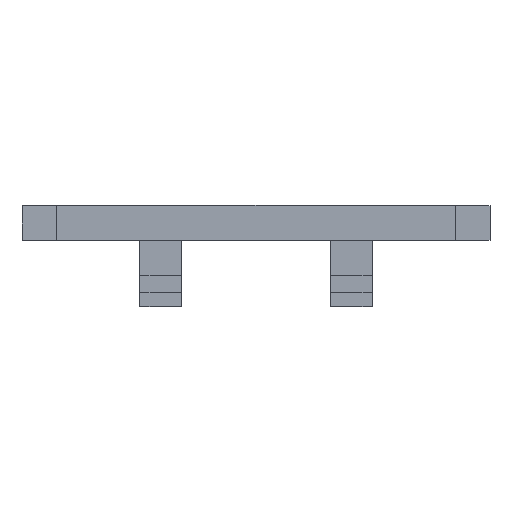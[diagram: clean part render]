
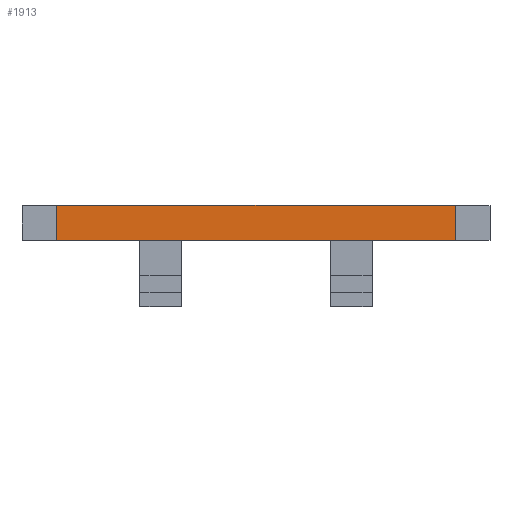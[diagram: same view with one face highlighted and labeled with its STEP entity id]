
A CAD part, top view. The second image highlights one B-rep face of the part: STEP entity #1913.
In plain terms, the highlighted planar face has unit normal (0, 0, 1).
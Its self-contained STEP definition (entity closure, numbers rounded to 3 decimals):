
#62 = PLANE('',#63);
#63 = AXIS2_PLACEMENT_3D('',#64,#65,#66);
#64 = CARTESIAN_POINT('',(-39.5,-17.6,-53.762));
#65 = DIRECTION('',(0.,1.,0.));
#66 = DIRECTION('',(0.,-0.,1.));
#118 = PLANE('',#119);
#119 = AXIS2_PLACEMENT_3D('',#120,#121,#122);
#120 = CARTESIAN_POINT('',(-39.5,-15.6,-53.762));
#121 = DIRECTION('',(0.,1.,0.));
#122 = DIRECTION('',(0.,-0.,1.));
#291 = VERTEX_POINT('',#292);
#292 = CARTESIAN_POINT('',(-39.5,-17.6,-35.762));
#306 = PLANE('',#307);
#307 = AXIS2_PLACEMENT_3D('',#308,#309,#310);
#308 = CARTESIAN_POINT('',(-39.5,-17.6,-53.762));
#309 = DIRECTION('',(1.,0.,0.));
#310 = DIRECTION('',(0.,0.,1.));
#318 = EDGE_CURVE('',#291,#319,#321,.T.);
#319 = VERTEX_POINT('',#320);
#320 = CARTESIAN_POINT('',(-16.5,-17.6,-35.762));
#321 = SURFACE_CURVE('',#322,(#326,#333),.PCURVE_S1.);
#322 = LINE('',#323,#324);
#323 = CARTESIAN_POINT('',(-39.5,-17.6,-35.762));
#324 = VECTOR('',#325,1.);
#325 = DIRECTION('',(1.,0.,0.));
#326 = PCURVE('',#62,#327);
#327 = DEFINITIONAL_REPRESENTATION('',(#328),#332);
#328 = LINE('',#329,#330);
#329 = CARTESIAN_POINT('',(18.,0.));
#330 = VECTOR('',#331,1.);
#331 = DIRECTION('',(0.,1.));
#332 = ( GEOMETRIC_REPRESENTATION_CONTEXT(2) 
PARAMETRIC_REPRESENTATION_CONTEXT() REPRESENTATION_CONTEXT('2D SPACE',''
  ) );
#333 = PCURVE('',#334,#339);
#334 = PLANE('',#335);
#335 = AXIS2_PLACEMENT_3D('',#336,#337,#338);
#336 = CARTESIAN_POINT('',(-39.5,-17.6,-35.762));
#337 = DIRECTION('',(0.,0.,1.));
#338 = DIRECTION('',(1.,0.,-0.));
#339 = DEFINITIONAL_REPRESENTATION('',(#340),#344);
#340 = LINE('',#341,#342);
#341 = CARTESIAN_POINT('',(0.,0.));
#342 = VECTOR('',#343,1.);
#343 = DIRECTION('',(1.,0.));
#344 = ( GEOMETRIC_REPRESENTATION_CONTEXT(2) 
PARAMETRIC_REPRESENTATION_CONTEXT() REPRESENTATION_CONTEXT('2D SPACE',''
  ) );
#362 = PLANE('',#363);
#363 = AXIS2_PLACEMENT_3D('',#364,#365,#366);
#364 = CARTESIAN_POINT('',(-16.5,-17.6,-53.762));
#365 = DIRECTION('',(1.,0.,0.));
#366 = DIRECTION('',(0.,0.,1.));
#1225 = VERTEX_POINT('',#1226);
#1226 = CARTESIAN_POINT('',(-39.5,-15.6,-35.762));
#1247 = EDGE_CURVE('',#1225,#1248,#1250,.T.);
#1248 = VERTEX_POINT('',#1249);
#1249 = CARTESIAN_POINT('',(-16.5,-15.6,-35.762));
#1250 = SURFACE_CURVE('',#1251,(#1255,#1262),.PCURVE_S1.);
#1251 = LINE('',#1252,#1253);
#1252 = CARTESIAN_POINT('',(-39.5,-15.6,-35.762));
#1253 = VECTOR('',#1254,1.);
#1254 = DIRECTION('',(1.,0.,0.));
#1255 = PCURVE('',#118,#1256);
#1256 = DEFINITIONAL_REPRESENTATION('',(#1257),#1261);
#1257 = LINE('',#1258,#1259);
#1258 = CARTESIAN_POINT('',(18.,0.));
#1259 = VECTOR('',#1260,1.);
#1260 = DIRECTION('',(0.,1.));
#1261 = ( GEOMETRIC_REPRESENTATION_CONTEXT(2) 
PARAMETRIC_REPRESENTATION_CONTEXT() REPRESENTATION_CONTEXT('2D SPACE',''
  ) );
#1262 = PCURVE('',#334,#1263);
#1263 = DEFINITIONAL_REPRESENTATION('',(#1264),#1268);
#1264 = LINE('',#1265,#1266);
#1265 = CARTESIAN_POINT('',(0.,2.));
#1266 = VECTOR('',#1267,1.);
#1267 = DIRECTION('',(1.,0.));
#1268 = ( GEOMETRIC_REPRESENTATION_CONTEXT(2) 
PARAMETRIC_REPRESENTATION_CONTEXT() REPRESENTATION_CONTEXT('2D SPACE',''
  ) );
#1866 = EDGE_CURVE('',#319,#1248,#1867,.T.);
#1867 = SURFACE_CURVE('',#1868,(#1872,#1879),.PCURVE_S1.);
#1868 = LINE('',#1869,#1870);
#1869 = CARTESIAN_POINT('',(-16.5,-17.6,-35.762));
#1870 = VECTOR('',#1871,1.);
#1871 = DIRECTION('',(0.,1.,0.));
#1872 = PCURVE('',#362,#1873);
#1873 = DEFINITIONAL_REPRESENTATION('',(#1874),#1878);
#1874 = LINE('',#1875,#1876);
#1875 = CARTESIAN_POINT('',(18.,0.));
#1876 = VECTOR('',#1877,1.);
#1877 = DIRECTION('',(0.,-1.));
#1878 = ( GEOMETRIC_REPRESENTATION_CONTEXT(2) 
PARAMETRIC_REPRESENTATION_CONTEXT() REPRESENTATION_CONTEXT('2D SPACE',''
  ) );
#1879 = PCURVE('',#334,#1880);
#1880 = DEFINITIONAL_REPRESENTATION('',(#1881),#1885);
#1881 = LINE('',#1882,#1883);
#1882 = CARTESIAN_POINT('',(23.,0.));
#1883 = VECTOR('',#1884,1.);
#1884 = DIRECTION('',(0.,1.));
#1885 = ( GEOMETRIC_REPRESENTATION_CONTEXT(2) 
PARAMETRIC_REPRESENTATION_CONTEXT() REPRESENTATION_CONTEXT('2D SPACE',''
  ) );
#1913 = ADVANCED_FACE('',(#1914),#334,.T.);
#1914 = FACE_BOUND('',#1915,.T.);
#1915 = EDGE_LOOP('',(#1916,#1937,#1938,#1939));
#1916 = ORIENTED_EDGE('',*,*,#1917,.F.);
#1917 = EDGE_CURVE('',#291,#1225,#1918,.T.);
#1918 = SURFACE_CURVE('',#1919,(#1923,#1930),.PCURVE_S1.);
#1919 = LINE('',#1920,#1921);
#1920 = CARTESIAN_POINT('',(-39.5,-17.6,-35.762));
#1921 = VECTOR('',#1922,1.);
#1922 = DIRECTION('',(0.,1.,0.));
#1923 = PCURVE('',#334,#1924);
#1924 = DEFINITIONAL_REPRESENTATION('',(#1925),#1929);
#1925 = LINE('',#1926,#1927);
#1926 = CARTESIAN_POINT('',(0.,0.));
#1927 = VECTOR('',#1928,1.);
#1928 = DIRECTION('',(0.,1.));
#1929 = ( GEOMETRIC_REPRESENTATION_CONTEXT(2) 
PARAMETRIC_REPRESENTATION_CONTEXT() REPRESENTATION_CONTEXT('2D SPACE',''
  ) );
#1930 = PCURVE('',#306,#1931);
#1931 = DEFINITIONAL_REPRESENTATION('',(#1932),#1936);
#1932 = LINE('',#1933,#1934);
#1933 = CARTESIAN_POINT('',(18.,0.));
#1934 = VECTOR('',#1935,1.);
#1935 = DIRECTION('',(0.,-1.));
#1936 = ( GEOMETRIC_REPRESENTATION_CONTEXT(2) 
PARAMETRIC_REPRESENTATION_CONTEXT() REPRESENTATION_CONTEXT('2D SPACE',''
  ) );
#1937 = ORIENTED_EDGE('',*,*,#318,.T.);
#1938 = ORIENTED_EDGE('',*,*,#1866,.T.);
#1939 = ORIENTED_EDGE('',*,*,#1247,.F.);
